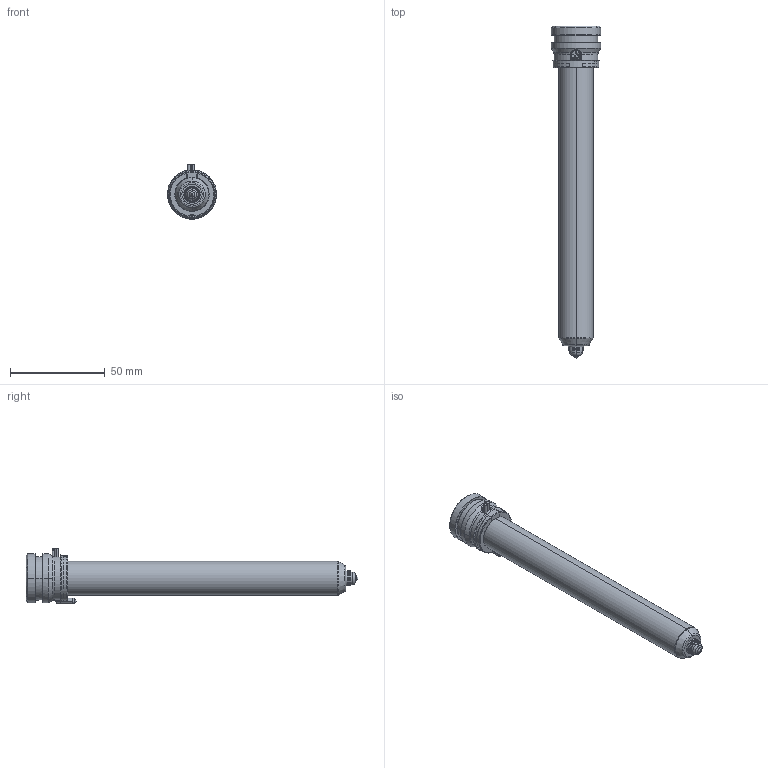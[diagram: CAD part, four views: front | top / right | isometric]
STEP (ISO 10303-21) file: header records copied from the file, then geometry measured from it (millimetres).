
FILE_DESCRIPTION((''),'2;1');
FILE_NAME('TH18157_5-A-1B15-PK-JG','2023-12-14T',('umhib'),('Thermoplay S.p.A.'),'PRO/ENGINEER BY PARAMETRIC TECHNOLOGY CORPORATION, 2017170','PRO/ENGINEER BY PARAMETRIC TECHNOLOGY CORPORATION, 2017170','');
FILE_SCHEMA(('CONFIG_CONTROL_DESIGN'));
Length unit declared in the file: millimetre
Products named in the file (1): TH18157_5-A-1B15-PK-JG
Bounding box: 26 x 175.5 x 29.5 mm (x, y, z)
Volume: 34940.6 mm3; surface area: 25426 mm2
Topology: 1 solids, 2 shells, 398 faces, 1036 edges, 643 vertices
Faces by surface type: cylinder 151, plane 85, cone 68, torus 56, bspline 24, sphere 12, extrusion 2
Entity records: 18086 total; most frequent: CARTESIAN_POINT 6121, ORIENTED_EDGE 2048, DIRECTION 2031, EDGE_CURVE 1026, AXIS2_PLACEMENT_3D 815, VERTEX_POINT 643, CIRCLE 442, EDGE_LOOP 418
